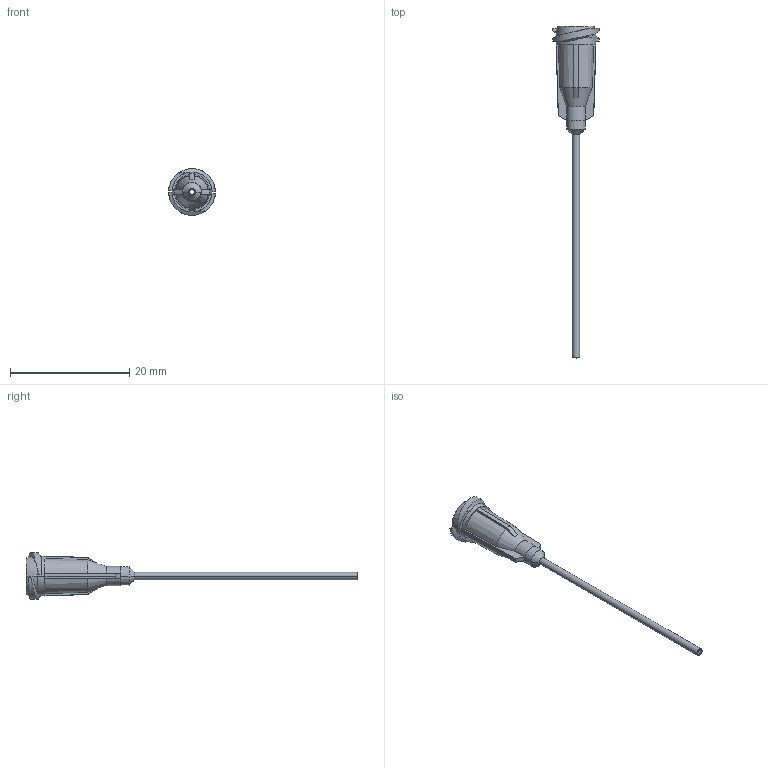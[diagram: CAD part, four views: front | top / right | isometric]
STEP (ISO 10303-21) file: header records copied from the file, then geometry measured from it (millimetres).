
FILE_DESCRIPTION (( 'STEP AP214' ), '1' );
FILE_NAME ('NORDSONEFD-7018137 TIP 18GA PP 032 X 1 1-2 GN.STEP', '2018-12-20T11:24:02', ( '' ), ( '' ), 'SwSTEP 2.0', 'SolidWorks 2018', '' );
FILE_SCHEMA (( 'AUTOMOTIVE_DESIGN' ));
Length unit declared in the file: inch
Products named in the file (1): NORDSONEFD-7018137 TIP 18GA PP 032 X 1 1-2 GN
Bounding box: 7.82 x 55.56 x 7.82 mm (x, y, z)
Volume: 284.9 mm3; surface area: 780.2 mm2
Topology: 1 solids, 1 shells, 88 faces, 208 edges, 124 vertices
Faces by surface type: plane 24, cone 22, torus 18, cylinder 12, bspline 12
Entity records: 3017 total; most frequent: CARTESIAN_POINT 955, ORIENTED_EDGE 416, DIRECTION 404, EDGE_CURVE 208, AXIS2_PLACEMENT_3D 175, VERTEX_POINT 124, CIRCLE 98, EDGE_LOOP 92
